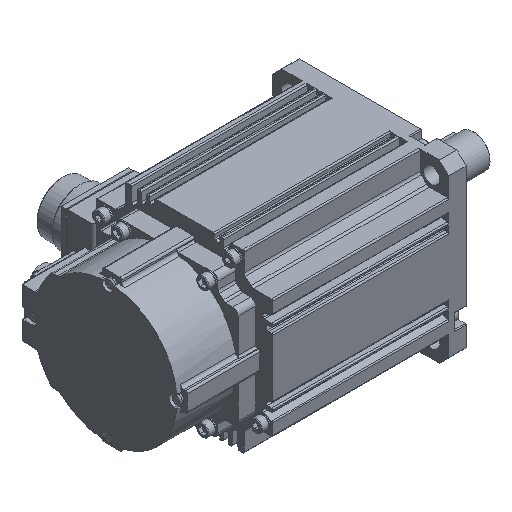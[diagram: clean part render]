
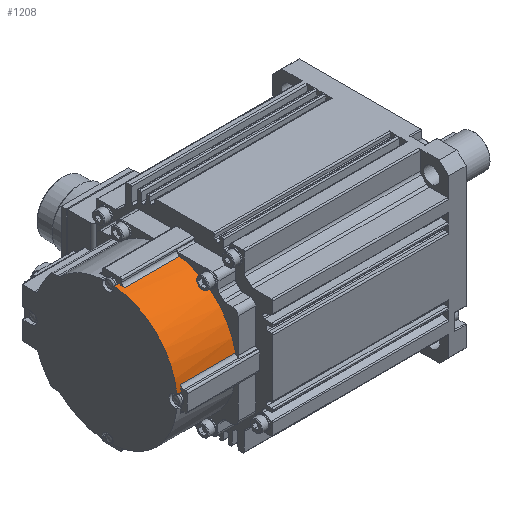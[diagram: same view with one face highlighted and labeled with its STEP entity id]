
A CAD part, isometric view. The second image highlights one B-rep face of the part: STEP entity #1208.
In plain terms, the highlighted cylindrical face has radius 39.65 mm (diameter 79.3 mm), a partial arc.
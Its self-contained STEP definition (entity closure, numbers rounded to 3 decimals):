
#1208 = ADVANCED_FACE( '', ( #2759 ), #2760, .T. );
#2759 = FACE_OUTER_BOUND( '', #4654, .T. );
#2760 = CYLINDRICAL_SURFACE( '', #4655, 39.65 );
#4654 = EDGE_LOOP( '', ( #8055, #8056, #8057, #8058, #8059, #8060, #8061, #8062 ) );
#4655 = AXIS2_PLACEMENT_3D( '', #8063, #8064, #8065 );
#8055 = ORIENTED_EDGE( '', *, *, #12020, .T. );
#8056 = ORIENTED_EDGE( '', *, *, #11234, .F. );
#8057 = ORIENTED_EDGE( '', *, *, #11014, .T. );
#8058 = ORIENTED_EDGE( '', *, *, #11456, .T. );
#8059 = ORIENTED_EDGE( '', *, *, #11820, .F. );
#8060 = ORIENTED_EDGE( '', *, *, #12021, .F. );
#8061 = ORIENTED_EDGE( '', *, *, #11211, .F. );
#8062 = ORIENTED_EDGE( '', *, *, #11655, .T. );
#8063 = CARTESIAN_POINT( '', ( -118.5, 0., 0. ) );
#8064 = DIRECTION( '', ( 1., 0., 0. ) );
#8065 = DIRECTION( '', ( 0., 0., 1. ) );
#11014 = EDGE_CURVE( '', #13242, #13240, #13243, .T. );
#11211 = EDGE_CURVE( '', #13575, #13571, #13577, .T. );
#11234 = EDGE_CURVE( '', #13242, #13595, #13619, .T. );
#11456 = EDGE_CURVE( '', #13240, #13978, #13980, .T. );
#11655 = EDGE_CURVE( '', #13575, #14290, #14292, .F. );
#11820 = EDGE_CURVE( '', #14544, #13978, #14546, .T. );
#12020 = EDGE_CURVE( '', #14290, #13595, #14822, .T. );
#12021 = EDGE_CURVE( '', #13571, #14544, #14823, .T. );
#13240 = VERTEX_POINT( '', #16420 );
#13242 = VERTEX_POINT( '', #16422 );
#13243 = LINE( '', #16423, #16424 );
#13571 = VERTEX_POINT( '', #16941 );
#13575 = VERTEX_POINT( '', #16946 );
#13577 = LINE( '', #16948, #16949 );
#13595 = VERTEX_POINT( '', #16970 );
#13619 = CIRCLE( '', #16999, 39.65 );
#13978 = VERTEX_POINT( '', #17496 );
#13980 = CIRCLE( '', #17498, 39.65 );
#14290 = VERTEX_POINT( '', #17917 );
#14292 = CIRCLE( '', #17919, 39.65 );
#14544 = VERTEX_POINT( '', #18279 );
#14546 = LINE( '', #18281, #18282 );
#14822 = LINE( '', #18670, #18671 );
#14823 = CIRCLE( '', #18672, 39.65 );
#16420 = CARTESIAN_POINT( '', ( -154.5, -3.798, 39.468 ) );
#16422 = CARTESIAN_POINT( '', ( -152., -3.798, 39.468 ) );
#16423 = CARTESIAN_POINT( '', ( -152., -3.798, 39.468 ) );
#16424 = VECTOR( '', #20230, 1000. );
#16941 = CARTESIAN_POINT( '', ( -152., -39.002, 7.14 ) );
#16946 = CARTESIAN_POINT( '', ( -120.5, -39.002, 7.14 ) );
#16948 = CARTESIAN_POINT( '', ( -118.5, -39.002, 7.14 ) );
#16949 = VECTOR( '', #20490, 1000. );
#16970 = CARTESIAN_POINT( '', ( -152., -7.14, 39.002 ) );
#16999 = AXIS2_PLACEMENT_3D( '', #20535, #20536, #20537 );
#17496 = CARTESIAN_POINT( '', ( -154.5, -39.468, 3.798 ) );
#17498 = AXIS2_PLACEMENT_3D( '', #20831, #20832, #20833 );
#17917 = CARTESIAN_POINT( '', ( -120.5, -7.14, 39.002 ) );
#17919 = AXIS2_PLACEMENT_3D( '', #21085, #21086, #21087 );
#18279 = CARTESIAN_POINT( '', ( -152., -39.468, 3.798 ) );
#18281 = CARTESIAN_POINT( '', ( -152., -39.468, 3.798 ) );
#18282 = VECTOR( '', #21273, 1000. );
#18670 = CARTESIAN_POINT( '', ( -118.5, -7.14, 39.002 ) );
#18671 = VECTOR( '', #21472, 1000. );
#18672 = AXIS2_PLACEMENT_3D( '', #21473, #21474, #21475 );
#20230 = DIRECTION( '', ( -1., 0., 0. ) );
#20490 = DIRECTION( '', ( -1., 0., 0. ) );
#20535 = CARTESIAN_POINT( '', ( -152., 0., 0. ) );
#20536 = DIRECTION( '', ( 1., 0., 0. ) );
#20537 = DIRECTION( '', ( 0., 0., -1. ) );
#20831 = CARTESIAN_POINT( '', ( -154.5, 0., 0. ) );
#20832 = DIRECTION( '', ( 1., 0., 0. ) );
#20833 = DIRECTION( '', ( 0., 0., -1. ) );
#21085 = CARTESIAN_POINT( '', ( -120.5, 0., 0. ) );
#21086 = DIRECTION( '', ( 1., 0., 0. ) );
#21087 = DIRECTION( '', ( 0., 0., -1. ) );
#21273 = DIRECTION( '', ( -1., 0., 0. ) );
#21472 = DIRECTION( '', ( -1., 0., 0. ) );
#21473 = CARTESIAN_POINT( '', ( -152., 0., 0. ) );
#21474 = DIRECTION( '', ( 1., 0., 0. ) );
#21475 = DIRECTION( '', ( 0., 0., -1. ) );
